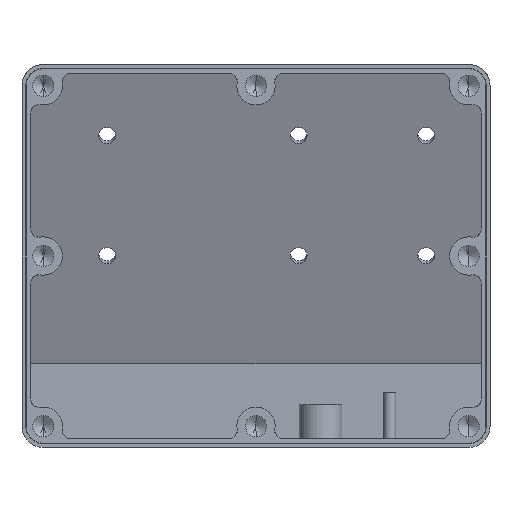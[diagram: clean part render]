
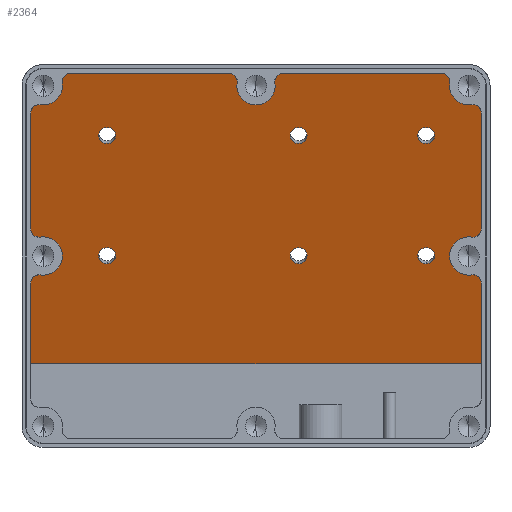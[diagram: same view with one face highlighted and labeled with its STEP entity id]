
A CAD part, front view. The second image highlights one B-rep face of the part: STEP entity #2364.
In plain terms, the highlighted planar face has unit normal (0, -0.942, -0.336).
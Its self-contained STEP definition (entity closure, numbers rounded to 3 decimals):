
#22 = DIRECTION ( 'NONE',  ( 0., 0.942, 0.336 ) ) ;
#82 = VECTOR ( 'NONE', #2662, 1000. ) ;
#91 = CARTESIAN_POINT ( 'NONE',  ( -45., 49.597, -46.818 ) ) ;
#110 = VERTEX_POINT ( 'NONE', #966 ) ;
#194 = EDGE_CURVE ( 'NONE', #472, #1745, #1172, .T. ) ;
#242 = CARTESIAN_POINT ( 'NONE',  ( -45., 38.834, -16.682 ) ) ;
#303 = EDGE_CURVE ( 'NONE', #4446, #1258, #3361, .T. ) ;
#330 = EDGE_CURVE ( 'NONE', #110, #3275, #4378, .T. ) ;
#360 = ORIENTED_EDGE ( 'NONE', *, *, #3441, .T. ) ;
#368 = ORIENTED_EDGE ( 'NONE', *, *, #3694, .T. ) ;
#395 = CIRCLE ( 'NONE', #4037, 2. ) ;
#408 = DIRECTION ( 'NONE',  ( 0., -0.336, 0.942 ) ) ;
#472 = VERTEX_POINT ( 'NONE', #3954 ) ;
#495 = EDGE_CURVE ( 'NONE', #3275, #110, #395, .T. ) ;
#506 = CARTESIAN_POINT ( 'NONE',  ( -15., 39.507, -18.566 ) ) ;
#526 = DIRECTION ( 'NONE',  ( 0., -0.336, 0.942 ) ) ;
#544 = EDGE_CURVE ( 'NONE', #2436, #3987, #2066, .T. ) ;
#570 = VERTEX_POINT ( 'NONE', #4004 ) ;
#640 = DIRECTION ( 'NONE',  ( 0., 0.942, 0.336 ) ) ;
#669 = CARTESIAN_POINT ( 'NONE',  ( -15., 38.162, -14.799 ) ) ;
#708 = AXIS2_PLACEMENT_3D ( 'NONE', #1899, #2298, #408 ) ;
#737 = DIRECTION ( 'NONE',  ( 0., -0.336, 0.942 ) ) ;
#758 = EDGE_CURVE ( 'NONE', #1745, #472, #4342, .T. ) ;
#856 = FACE_BOUND ( 'NONE', #3721, .T. ) ;
#880 = FACE_BOUND ( 'NONE', #2722, .T. ) ;
#900 = ORIENTED_EDGE ( 'NONE', *, *, #544, .T. ) ;
#914 = DIRECTION ( 'NONE',  ( 0., 0.942, 0.336 ) ) ;
#933 = DIRECTION ( 'NONE',  ( 0., -0.336, 0.942 ) ) ;
#966 = CARTESIAN_POINT ( 'NONE',  ( -45., 38.162, -14.799 ) ) ;
#968 = EDGE_CURVE ( 'NONE', #4006, #4297, #4611, .T. ) ;
#988 = VECTOR ( 'NONE', #1485, 1000. ) ;
#1006 = VERTEX_POINT ( 'NONE', #91 ) ;
#1029 = AXIS2_PLACEMENT_3D ( 'NONE', #1775, #2500, #933 ) ;
#1035 = VERTEX_POINT ( 'NONE', #506 ) ;
#1079 = DIRECTION ( 'NONE',  ( 0., 0.942, 0.336 ) ) ;
#1082 = ORIENTED_EDGE ( 'NONE', *, *, #495, .T. ) ;
#1111 = VECTOR ( 'NONE', #3704, 1000. ) ;
#1172 = CIRCLE ( 'NONE', #3935, 2. ) ;
#1177 = FACE_BOUND ( 'NONE', #3826, .T. ) ;
#1258 = VERTEX_POINT ( 'NONE', #2562 ) ;
#1265 = ORIENTED_EDGE ( 'NONE', *, *, #1911, .T. ) ;
#1299 = CARTESIAN_POINT ( 'NONE',  ( -15., 48.252, -43.051 ) ) ;
#1349 = CARTESIAN_POINT ( 'NONE',  ( -90., 38.162, -14.799 ) ) ;
#1427 = ORIENTED_EDGE ( 'NONE', *, *, #758, .T. ) ;
#1480 = CARTESIAN_POINT ( 'NONE',  ( -15., 38.834, -16.682 ) ) ;
#1485 = DIRECTION ( 'NONE',  ( 1., 0., 0. ) ) ;
#1486 = ORIENTED_EDGE ( 'NONE', *, *, #330, .T. ) ;
#1533 = CARTESIAN_POINT ( 'NONE',  ( -110., 33.591, -2. ) ) ;
#1547 = CARTESIAN_POINT ( 'NONE',  ( -90., 38.834, -16.682 ) ) ;
#1585 = CIRCLE ( 'NONE', #1029, 2. ) ;
#1681 = DIRECTION ( 'NONE',  ( 0., -0.336, 0.942 ) ) ;
#1708 = VERTEX_POINT ( 'NONE', #669 ) ;
#1745 = VERTEX_POINT ( 'NONE', #2006 ) ;
#1763 = AXIS2_PLACEMENT_3D ( 'NONE', #1547, #2391, #3054 ) ;
#1775 = CARTESIAN_POINT ( 'NONE',  ( -45., 48.924, -44.935 ) ) ;
#1844 = DIRECTION ( 'NONE',  ( 0., 0.942, 0.336 ) ) ;
#1845 = ORIENTED_EDGE ( 'NONE', *, *, #2674, .T. ) ;
#1858 = AXIS2_PLACEMENT_3D ( 'NONE', #1929, #3528, #3507 ) ;
#1889 = DIRECTION ( 'NONE',  ( 0., -0.336, 0.942 ) ) ;
#1899 = CARTESIAN_POINT ( 'NONE',  ( -90., 48.924, -44.935 ) ) ;
#1909 = CARTESIAN_POINT ( 'NONE',  ( -15., 38.834, -16.682 ) ) ;
#1910 = EDGE_LOOP ( 'NONE', ( #2775, #1265 ) ) ;
#1911 = EDGE_CURVE ( 'NONE', #1035, #1708, #2291, .T. ) ;
#1928 = CIRCLE ( 'NONE', #3112, 2. ) ;
#1929 = CARTESIAN_POINT ( 'NONE',  ( -45., 38.834, -16.682 ) ) ;
#1944 = ORIENTED_EDGE ( 'NONE', *, *, #1967, .F. ) ;
#1967 = EDGE_CURVE ( 'NONE', #4006, #4446, #2206, .T. ) ;
#2006 = CARTESIAN_POINT ( 'NONE',  ( -90., 49.597, -46.818 ) ) ;
#2022 = CARTESIAN_POINT ( 'NONE',  ( -110., 58.117, -70.673 ) ) ;
#2066 = CIRCLE ( 'NONE', #4271, 2. ) ;
#2079 = CARTESIAN_POINT ( 'NONE',  ( -108., 33.591, -2. ) ) ;
#2107 = EDGE_CURVE ( 'NONE', #570, #1006, #1585, .T. ) ;
#2139 = CARTESIAN_POINT ( 'NONE',  ( -90., 48.924, -44.935 ) ) ;
#2199 = VERTEX_POINT ( 'NONE', #3770 ) ;
#2206 = LINE ( 'NONE', #2968, #1111 ) ;
#2237 = ORIENTED_EDGE ( 'NONE', *, *, #2370, .T. ) ;
#2242 = CIRCLE ( 'NONE', #1763, 2. ) ;
#2291 = CIRCLE ( 'NONE', #3633, 2. ) ;
#2298 = DIRECTION ( 'NONE',  ( 0., 0.942, 0.336 ) ) ;
#2325 = AXIS2_PLACEMENT_3D ( 'NONE', #2022, #4585, #4221 ) ;
#2364 = ADVANCED_FACE ( 'NONE', ( #4267, #2737, #856, #880, #4659, #1177, #4287 ), #2713, .F. ) ;
#2370 = EDGE_CURVE ( 'NONE', #2497, #2199, #2242, .T. ) ;
#2391 = DIRECTION ( 'NONE',  ( 0., 0.942, 0.336 ) ) ;
#2411 = LINE ( 'NONE', #3913, #3396 ) ;
#2436 = VERTEX_POINT ( 'NONE', #1299 ) ;
#2483 = CARTESIAN_POINT ( 'NONE',  ( -15., 49.597, -46.818 ) ) ;
#2497 = VERTEX_POINT ( 'NONE', #1349 ) ;
#2500 = DIRECTION ( 'NONE',  ( 0., 0.942, 0.336 ) ) ;
#2543 = CARTESIAN_POINT ( 'NONE',  ( -15., 48.924, -44.935 ) ) ;
#2562 = CARTESIAN_POINT ( 'NONE',  ( -2., 33.591, -2. ) ) ;
#2638 = EDGE_LOOP ( 'NONE', ( #2237, #360 ) ) ;
#2651 = CARTESIAN_POINT ( 'NONE',  ( -2., 58., -70.346 ) ) ;
#2662 = DIRECTION ( 'NONE',  ( 1., 0., 0. ) ) ;
#2674 = EDGE_CURVE ( 'NONE', #1006, #570, #4614, .T. ) ;
#2713 = PLANE ( 'NONE',  #2325 ) ;
#2722 = EDGE_LOOP ( 'NONE', ( #900, #3525 ) ) ;
#2737 = FACE_BOUND ( 'NONE', #1910, .T. ) ;
#2766 = CIRCLE ( 'NONE', #4262, 2. ) ;
#2775 = ORIENTED_EDGE ( 'NONE', *, *, #4358, .T. ) ;
#2800 = AXIS2_PLACEMENT_3D ( 'NONE', #4502, #1079, #1889 ) ;
#2812 = CARTESIAN_POINT ( 'NONE',  ( -45., 39.507, -18.566 ) ) ;
#2852 = DIRECTION ( 'NONE',  ( 0., -0.336, 0.942 ) ) ;
#2968 = CARTESIAN_POINT ( 'NONE',  ( -108., 29.157, 10.413 ) ) ;
#3054 = DIRECTION ( 'NONE',  ( 0., -0.336, 0.942 ) ) ;
#3068 = DIRECTION ( 'NONE',  ( 0., 0.942, 0.336 ) ) ;
#3112 = AXIS2_PLACEMENT_3D ( 'NONE', #1909, #3068, #4570 ) ;
#3166 = CARTESIAN_POINT ( 'NONE',  ( -108., 58., -70.346 ) ) ;
#3275 = VERTEX_POINT ( 'NONE', #2812 ) ;
#3301 = DIRECTION ( 'NONE',  ( 0., -0.336, 0.942 ) ) ;
#3361 = LINE ( 'NONE', #1533, #988 ) ;
#3396 = VECTOR ( 'NONE', #526, 1000. ) ;
#3441 = EDGE_CURVE ( 'NONE', #2199, #2497, #2766, .T. ) ;
#3445 = ORIENTED_EDGE ( 'NONE', *, *, #303, .F. ) ;
#3447 = CARTESIAN_POINT ( 'NONE',  ( -110., 58., -70.346 ) ) ;
#3463 = EDGE_LOOP ( 'NONE', ( #368, #3445, #1944, #4416 ) ) ;
#3507 = DIRECTION ( 'NONE',  ( 0., -0.336, 0.942 ) ) ;
#3525 = ORIENTED_EDGE ( 'NONE', *, *, #4499, .T. ) ;
#3528 = DIRECTION ( 'NONE',  ( 0., 0.942, 0.336 ) ) ;
#3601 = DIRECTION ( 'NONE',  ( 0., -0.336, 0.942 ) ) ;
#3609 = AXIS2_PLACEMENT_3D ( 'NONE', #2543, #4049, #3301 ) ;
#3627 = ORIENTED_EDGE ( 'NONE', *, *, #194, .T. ) ;
#3633 = AXIS2_PLACEMENT_3D ( 'NONE', #1480, #22, #737 ) ;
#3694 = EDGE_CURVE ( 'NONE', #4297, #1258, #2411, .T. ) ;
#3704 = DIRECTION ( 'NONE',  ( 0., -0.336, 0.942 ) ) ;
#3721 = EDGE_LOOP ( 'NONE', ( #1486, #1082 ) ) ;
#3758 = EDGE_LOOP ( 'NONE', ( #4880, #1845 ) ) ;
#3770 = CARTESIAN_POINT ( 'NONE',  ( -90., 39.507, -18.566 ) ) ;
#3826 = EDGE_LOOP ( 'NONE', ( #3627, #1427 ) ) ;
#3913 = CARTESIAN_POINT ( 'NONE',  ( -2., 29.157, 10.413 ) ) ;
#3935 = AXIS2_PLACEMENT_3D ( 'NONE', #2139, #4723, #2852 ) ;
#3954 = CARTESIAN_POINT ( 'NONE',  ( -90., 48.252, -43.051 ) ) ;
#3987 = VERTEX_POINT ( 'NONE', #2483 ) ;
#4004 = CARTESIAN_POINT ( 'NONE',  ( -45., 48.252, -43.051 ) ) ;
#4006 = VERTEX_POINT ( 'NONE', #3166 ) ;
#4037 = AXIS2_PLACEMENT_3D ( 'NONE', #242, #640, #1681 ) ;
#4049 = DIRECTION ( 'NONE',  ( 0., 0.942, 0.336 ) ) ;
#4221 = DIRECTION ( 'NONE',  ( 0., -0.336, 0.942 ) ) ;
#4262 = AXIS2_PLACEMENT_3D ( 'NONE', #4856, #1844, #4438 ) ;
#4267 = FACE_BOUND ( 'NONE', #2638, .T. ) ;
#4271 = AXIS2_PLACEMENT_3D ( 'NONE', #4300, #914, #3601 ) ;
#4287 = FACE_OUTER_BOUND ( 'NONE', #3463, .T. ) ;
#4297 = VERTEX_POINT ( 'NONE', #2651 ) ;
#4300 = CARTESIAN_POINT ( 'NONE',  ( -15., 48.924, -44.935 ) ) ;
#4342 = CIRCLE ( 'NONE', #708, 2. ) ;
#4358 = EDGE_CURVE ( 'NONE', #1708, #1035, #1928, .T. ) ;
#4378 = CIRCLE ( 'NONE', #1858, 2. ) ;
#4416 = ORIENTED_EDGE ( 'NONE', *, *, #968, .T. ) ;
#4438 = DIRECTION ( 'NONE',  ( 0., -0.336, 0.942 ) ) ;
#4446 = VERTEX_POINT ( 'NONE', #2079 ) ;
#4499 = EDGE_CURVE ( 'NONE', #3987, #2436, #4795, .T. ) ;
#4502 = CARTESIAN_POINT ( 'NONE',  ( -45., 48.924, -44.935 ) ) ;
#4570 = DIRECTION ( 'NONE',  ( 0., -0.336, 0.942 ) ) ;
#4585 = DIRECTION ( 'NONE',  ( 0., 0.942, 0.336 ) ) ;
#4611 = LINE ( 'NONE', #3447, #82 ) ;
#4614 = CIRCLE ( 'NONE', #2800, 2. ) ;
#4659 = FACE_BOUND ( 'NONE', #3758, .T. ) ;
#4723 = DIRECTION ( 'NONE',  ( 0., 0.942, 0.336 ) ) ;
#4795 = CIRCLE ( 'NONE', #3609, 2. ) ;
#4856 = CARTESIAN_POINT ( 'NONE',  ( -90., 38.834, -16.682 ) ) ;
#4880 = ORIENTED_EDGE ( 'NONE', *, *, #2107, .T. ) ;
